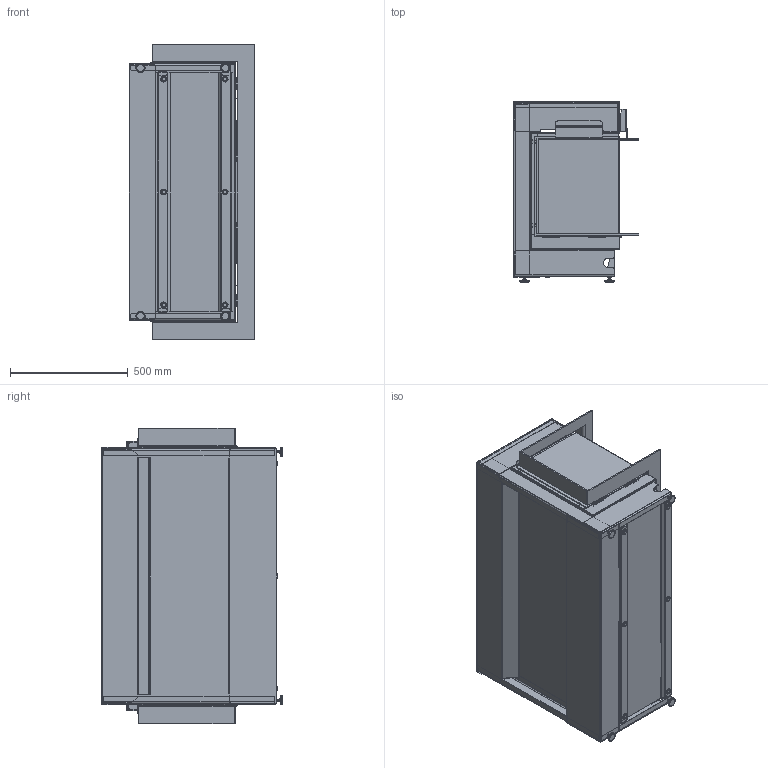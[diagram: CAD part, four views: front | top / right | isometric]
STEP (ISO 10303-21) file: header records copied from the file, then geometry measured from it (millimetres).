
FILE_DESCRIPTION (( 'STEP AP214' ), '1' );
FILE_NAME ('Faber e-MatriX 1050x400 III_defeature.STEP', '2022-06-01T08:43:01', ( '' ), ( '' ), 'SwSTEP 2.0', 'SolidWorks 2021', '' );
FILE_SCHEMA (( 'AUTOMOTIVE_DESIGN' ));
Length unit declared in the file: millimetre
Products named in the file (1): Faber e-MatriX 1050x400 III_defeature
Bounding box: 533.5 x 765.41 x 1251 mm (x, y, z)
Volume: 11605049.8 mm3; surface area: 10350891.4 mm2
Topology: 28 solids, 28 shells, 1772 faces, 4356 edges, 2642 vertices
Faces by surface type: plane 1031, cylinder 567, bspline 98, cone 44, torus 32
Entity records: 66098 total; most frequent: CARTESIAN_POINT 25144, ORIENTED_EDGE 8712, DIRECTION 8078, EDGE_CURVE 4356, VECTOR 2888, LINE 2888, VERTEX_POINT 2642, AXIS2_PLACEMENT_3D 2595
